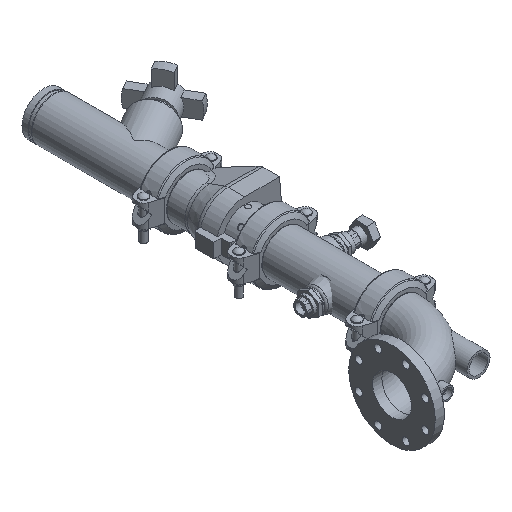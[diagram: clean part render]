
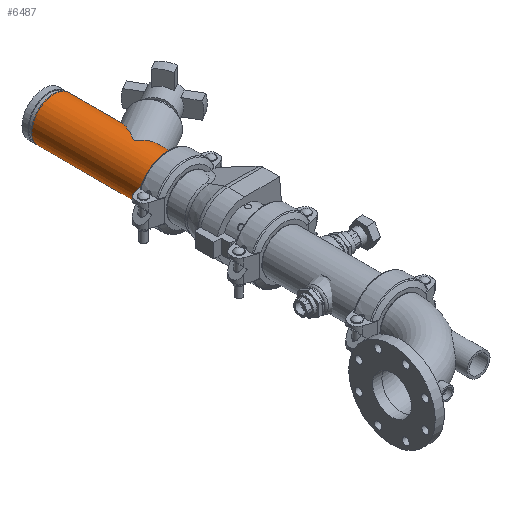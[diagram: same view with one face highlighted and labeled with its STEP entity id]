
A CAD part, isometric view. The second image highlights one B-rep face of the part: STEP entity #6487.
In plain terms, the highlighted cylindrical face has radius 57.15 mm (diameter 114.3 mm), a full revolution.
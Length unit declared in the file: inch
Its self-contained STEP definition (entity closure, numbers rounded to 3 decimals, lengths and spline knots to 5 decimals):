
#121=ELLIPSE('',#7071,4.5,2.25);
#122=ELLIPSE('',#7072,2.59808,2.25);
#123=ELLIPSE('',#7075,2.59808,2.25);
#124=ELLIPSE('',#7076,4.5,2.25);
#211=LINE('',#9974,#689);
#212=LINE('',#9980,#690);
#689=VECTOR('',#7970,2.25);
#690=VECTOR('',#7975,2.25);
#1138=CYLINDRICAL_SURFACE('',#7068,2.25);
#1364=FACE_OUTER_BOUND('',#1729,.T.);
#1729=EDGE_LOOP('',(#4194,#4195,#4196,#4197,#4198,#4199,#4200,#4201,#4202,
#4203,#4204,#4205));
#2178=CIRCLE('',#7069,2.25);
#2179=CIRCLE('',#7070,2.25);
#2180=CIRCLE('',#7073,2.25);
#2181=CIRCLE('',#7074,2.25);
#2565=VERTEX_POINT('',#9969);
#2566=VERTEX_POINT('',#9970);
#2567=VERTEX_POINT('',#9973);
#2568=VERTEX_POINT('',#9975);
#2569=VERTEX_POINT('',#9977);
#2570=VERTEX_POINT('',#9979);
#2571=VERTEX_POINT('',#9981);
#2572=VERTEX_POINT('',#9984);
#3209=EDGE_CURVE('',#2565,#2566,#2178,.T.);
#3210=EDGE_CURVE('',#2566,#2565,#2179,.T.);
#3211=EDGE_CURVE('',#2566,#2567,#211,.T.);
#3212=EDGE_CURVE('',#2567,#2568,#121,.T.);
#3213=EDGE_CURVE('',#2568,#2569,#122,.T.);
#3214=EDGE_CURVE('',#2569,#2570,#212,.T.);
#3215=EDGE_CURVE('',#2570,#2571,#2180,.T.);
#3216=EDGE_CURVE('',#2571,#2570,#2181,.T.);
#3217=EDGE_CURVE('',#2569,#2572,#123,.T.);
#3218=EDGE_CURVE('',#2572,#2567,#124,.T.);
#4194=ORIENTED_EDGE('',*,*,#3209,.F.);
#4195=ORIENTED_EDGE('',*,*,#3210,.F.);
#4196=ORIENTED_EDGE('',*,*,#3211,.T.);
#4197=ORIENTED_EDGE('',*,*,#3212,.T.);
#4198=ORIENTED_EDGE('',*,*,#3213,.T.);
#4199=ORIENTED_EDGE('',*,*,#3214,.T.);
#4200=ORIENTED_EDGE('',*,*,#3215,.T.);
#4201=ORIENTED_EDGE('',*,*,#3216,.T.);
#4202=ORIENTED_EDGE('',*,*,#3214,.F.);
#4203=ORIENTED_EDGE('',*,*,#3217,.T.);
#4204=ORIENTED_EDGE('',*,*,#3218,.T.);
#4205=ORIENTED_EDGE('',*,*,#3211,.F.);
#6487=ADVANCED_FACE('',(#1364),#1138,.T.);
#7068=AXIS2_PLACEMENT_3D('',#9968,#7964,#7965);
#7069=AXIS2_PLACEMENT_3D('',#9971,#7966,#7967);
#7070=AXIS2_PLACEMENT_3D('',#9972,#7968,#7969);
#7071=AXIS2_PLACEMENT_3D('',#9976,#7971,#7972);
#7072=AXIS2_PLACEMENT_3D('',#9978,#7973,#7974);
#7073=AXIS2_PLACEMENT_3D('',#9982,#7976,#7977);
#7074=AXIS2_PLACEMENT_3D('',#9983,#7978,#7979);
#7075=AXIS2_PLACEMENT_3D('',#9985,#7980,#7981);
#7076=AXIS2_PLACEMENT_3D('',#9986,#7982,#7983);
#7964=DIRECTION('center_axis',(1.,0.,0.));
#7965=DIRECTION('ref_axis',(0.,1.,0.));
#7966=DIRECTION('center_axis',(1.,0.,0.));
#7967=DIRECTION('ref_axis',(0.,0.,-1.));
#7968=DIRECTION('center_axis',(1.,0.,0.));
#7969=DIRECTION('ref_axis',(0.,0.,-1.));
#7970=DIRECTION('',(-1.,0.,0.));
#7971=DIRECTION('center_axis',(0.5,0.866,0.));
#7972=DIRECTION('ref_axis',(-0.866,0.5,0.));
#7973=DIRECTION('center_axis',(-0.866,0.5,0.));
#7974=DIRECTION('ref_axis',(-0.5,-0.866,0.));
#7975=DIRECTION('',(-1.,0.,0.));
#7976=DIRECTION('center_axis',(1.,0.,0.));
#7977=DIRECTION('ref_axis',(0.,0.,-1.));
#7978=DIRECTION('center_axis',(1.,0.,0.));
#7979=DIRECTION('ref_axis',(0.,0.,-1.));
#7980=DIRECTION('center_axis',(-0.866,0.5,0.));
#7981=DIRECTION('ref_axis',(-0.5,-0.866,0.));
#7982=DIRECTION('center_axis',(0.5,0.866,0.));
#7983=DIRECTION('ref_axis',(-0.866,0.5,0.));
#9968=CARTESIAN_POINT('Origin',(0.,0.,0.));
#9969=CARTESIAN_POINT('',(5.875,2.25,0.));
#9970=CARTESIAN_POINT('',(5.875,-2.25,0.));
#9971=CARTESIAN_POINT('Origin',(5.875,0.,0.));
#9972=CARTESIAN_POINT('Origin',(5.875,0.,0.));
#9973=CARTESIAN_POINT('',(1.35625,-2.25,0.));
#9974=CARTESIAN_POINT('',(0.,-2.25,0.));
#9975=CARTESIAN_POINT('',(-2.54086,0.,-2.25));
#9976=CARTESIAN_POINT('Origin',(-2.54086,0.,
0.));
#9977=CARTESIAN_POINT('',(-3.8399,-2.25,0.));
#9978=CARTESIAN_POINT('Origin',(-2.54086,0.,
0.));
#9979=CARTESIAN_POINT('',(-5.875,-2.25,0.));
#9980=CARTESIAN_POINT('',(0.,-2.25,0.));
#9981=CARTESIAN_POINT('',(-5.875,2.25,0.));
#9982=CARTESIAN_POINT('Origin',(-5.875,0.,0.));
#9983=CARTESIAN_POINT('Origin',(-5.875,0.,0.));
#9984=CARTESIAN_POINT('',(-2.54086,0.,2.25));
#9985=CARTESIAN_POINT('Origin',(-2.54086,0.,
0.));
#9986=CARTESIAN_POINT('Origin',(-2.54086,0.,
0.));
